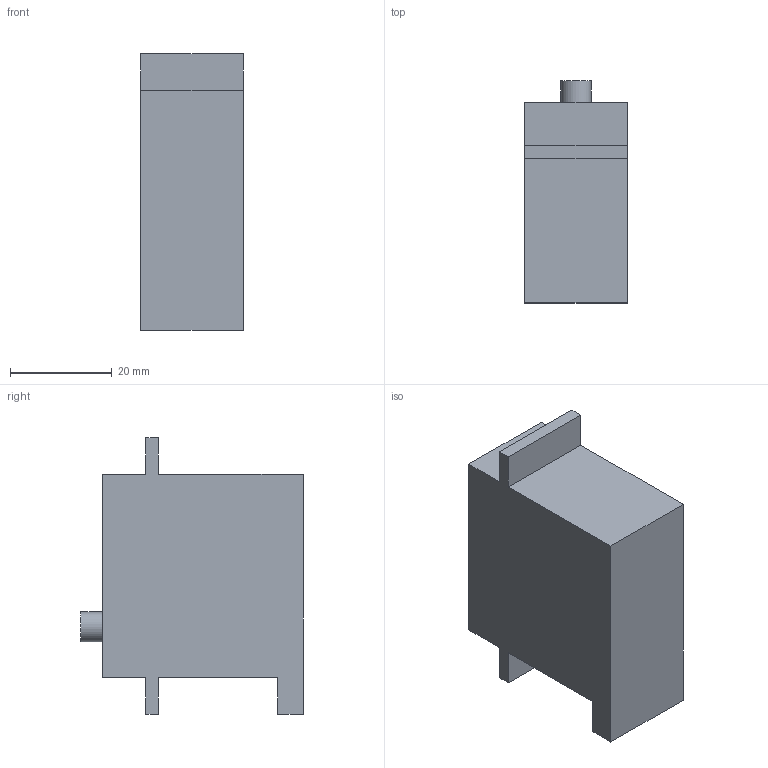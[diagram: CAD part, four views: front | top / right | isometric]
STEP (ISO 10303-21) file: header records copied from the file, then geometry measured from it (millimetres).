
FILE_DESCRIPTION(/* description */ (''),/* implementation_level */ '2;1');
FILE_NAME(/* name */ 'D:\OneDrive - Vysoké učení technické v Brně\4-PROJEKTY\3_Pneumobil\3-PNEUCAR\CAD\STARTER KIT\Servo.stp',/* time_stamp */ '2023-12-20T16:27:58+01:00',/* author */ ('Michalec'),/* organization */ (''),/* preprocessor_version */ 'ST-DEVELOPER v19',/* originating_system */ 'Autodesk Inventor 2023',/* authorisation */ '');
FILE_SCHEMA (('AUTOMOTIVE_DESIGN { 1 0 10303 214 3 1 1 }'));
Length unit declared in the file: millimetre
Products named in the file (1): Servo
Bounding box: 20.15 x 43.8 x 54.5 mm (x, y, z)
Volume: 33456.3 mm3; surface area: 7470.8 mm2
Topology: 1 solids, 1 shells, 18 faces, 45 edges, 30 vertices
Faces by surface type: plane 17, cylinder 1
Full cylindrical faces by diameter (mm): 5.95 x1
Entity records: 574 total; most frequent: CARTESIAN_POINT 94, ORIENTED_EDGE 90, DIRECTION 85, EDGE_CURVE 45, LINE 43, VECTOR 43, VERTEX_POINT 30, AXIS2_PLACEMENT_3D 21
